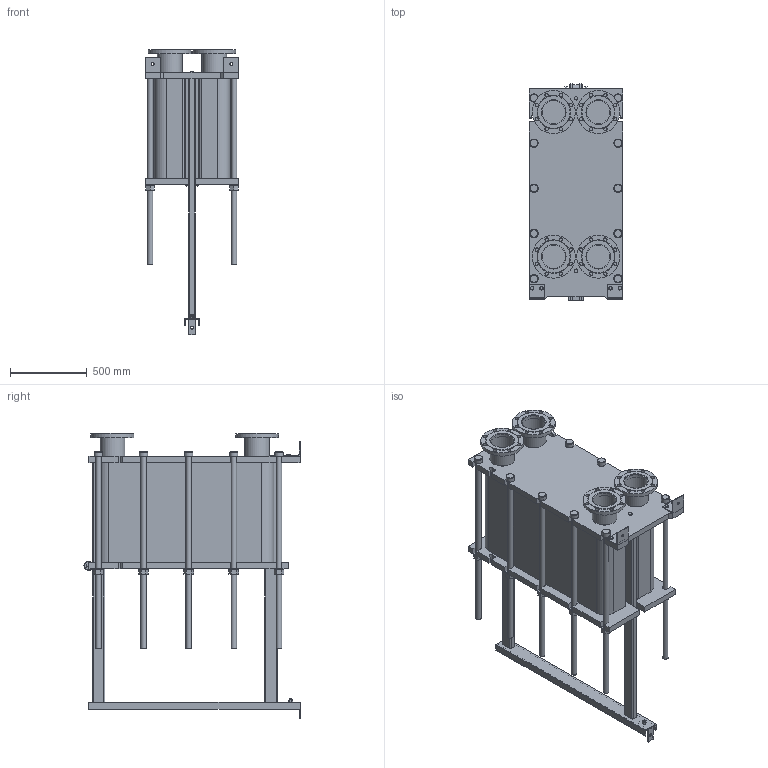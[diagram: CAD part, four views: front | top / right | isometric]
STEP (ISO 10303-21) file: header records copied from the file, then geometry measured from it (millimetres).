
FILE_DESCRIPTION(/* description */ (''),/* implementation_level */ '2;1');
FILE_NAME(/* name */ 'C:\Users\zhuro\Desktop\ENCO\TO\ЭН-041\ЭН-0,5-041-189-1.stp',/* time_stamp */ '2022-06-06T11:05:41+03:00',/* author */ ('zhuro'),/* organization */ (''),/* preprocessor_version */ 'ST-DEVELOPER v18.1',/* originating_system */ 'Autodesk Inventor 2022',/* authorisation */ '');
FILE_SCHEMA (('AUTOMOTIVE_DESIGN { 1 0 10303 214 3 1 1 }'));
Length unit declared in the file: millimetre
Products named in the file (1): ЭН-0,5-041-189-1
Bounding box: 610 x 1406.5 x 1857.5 mm (x, y, z)
Volume: 453464637.3 mm3; surface area: 10986888.1 mm2
Topology: 52 solids, 52 shells, 711 faces, 1696 edges, 1094 vertices
Faces by surface type: plane 487, cylinder 177, cone 41, torus 6
Full cylindrical faces by diameter (mm): 8 x4, 10 x2, 16 x8, 18 x3, 22 x32, 36 x24, 50 x1, 54 x10, 60 x12, 151 x4, 161 x8, 280 x4
Entity records: 22667 total; most frequent: CARTESIAN_POINT 5230, DIRECTION 3644, ORIENTED_EDGE 3392, EDGE_CURVE 1696, AXIS2_PLACEMENT_3D 1272, LINE 1100, VECTOR 1100, VERTEX_POINT 1094
